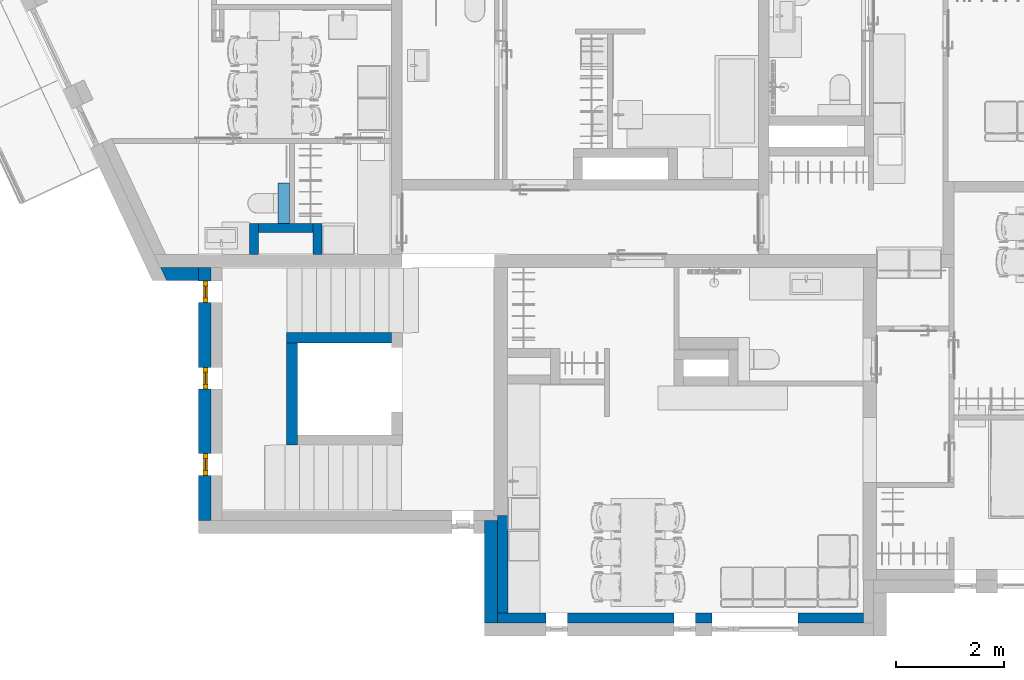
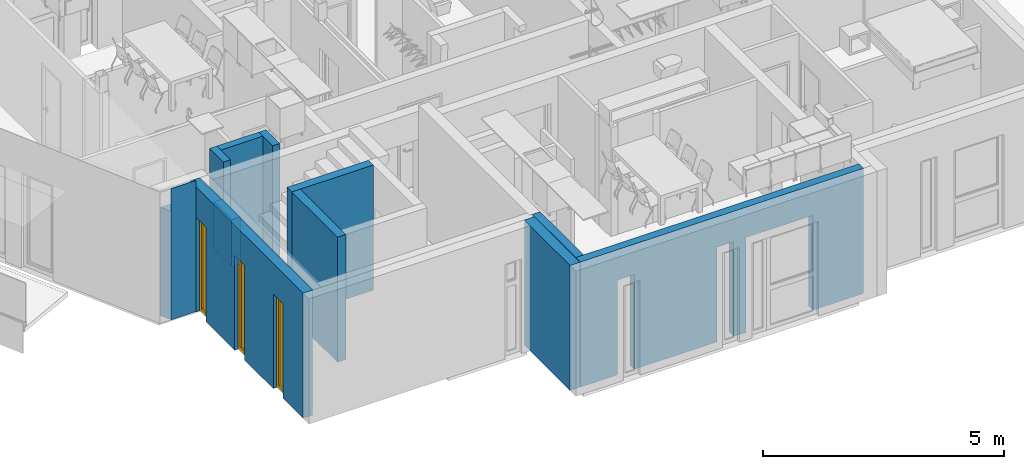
# One storey, part 3 of 68: 11 walls, 3 windows, 12 openings.
"""IFC2X3 building model written with IfcOpenShell, lengths in millimetres."""

from ifc_helpers import new_model, entity, si_unit, converted_unit, direction, frame, frame_2d, origin, place, context, subcontext, project, spatial, polyline, rectangle, outline, extrude, clip, bounded_halfspace, faceted_brep, source, transform, mapped, material, material_list, layer, layer_set, layer_usage, type_object, type_shapes, element, fill, save


model = new_model("IFC2X3")

# Units and contexts
model_context = context("Model", 3, precision=0.01, world=origin(), true_north=direction((6.123233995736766e-17, 1.0)))
plan_context = context("Plan", 3, precision=0.01, world=origin(), true_north=direction((6.123233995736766e-17, 1.0)))
body_context = subcontext(model_context, "Body", "Model", "MODEL_VIEW")
ifc_project = project(units=[si_unit("LENGTHUNIT", "METRE", prefix="MILLI"), converted_unit("PLANEANGLEUNIT", "DEGREE", entity("IfcPlaneAngleMeasure", 0.017453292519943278), si_unit("PLANEANGLEUNIT", "RADIAN"), dimensions=[0, 0, 0, 0, 0, 0, 0]), si_unit("AREAUNIT", "SQUARE_METRE")], contexts=[model_context, plan_context])

# Site, building, storey
site_placement = place(None, origin())
site = spatial("IfcSite", under=ifc_project, at=site_placement, Name="Default", CompositionType="ELEMENT")
building_placement = place(site_placement, origin())
building = spatial("IfcBuilding", under=site, at=building_placement, CompositionType="ELEMENT")
storey_placement = place(building_placement, frame((0.0, 0.0, 6295.0)))
storey = spatial("IfcBuildingStorey", under=building, at=storey_placement, Name="3K", CompositionType="ELEMENT", Elevation=6294.999999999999)

# Walls
ifc_material_1 = material(Name="_K. Väisviimistlus. Krohv. Valge")
ifc_layer_1 = layer(ifc_material_1, 5.0)
ifc_material_2 = material(Name="_K. Müüritis. Väikeplokk. Betoon-õõnesplokk")
ifc_layer_2 = layer(ifc_material_2, 190.00000000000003)
ifc_layer_3 = layer(ifc_material_1, 5.0)
ifc_layer_set_1 = layer_set([ifc_layer_1, ifc_layer_2, ifc_layer_3], Name="Basic Wall:SS-01. 190")
ifc_layer_usage_1 = layer_usage(ifc_layer_set_1, "AXIS2", "NEGATIVE", 100.00000000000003)
wall_type_1 = type_object("IfcWallType", Name="Basic Wall:SS-01. 190", PredefinedType="STANDARD", material=ifc_layer_set_1)
wall_1_placement = place(storey_placement, frame((1199.993534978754, 5099.998433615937, 0.0)))
element("IfcWallStandardCase", 1, at=wall_1_placement, inside=storey, type_object=wall_type_1, material=ifc_layer_usage_1, Name="Basic Wall:SS-01. 190", ObjectType="Basic Wall:SS-01. 190", context=body_context, shape_type="SweptSolid", body=[
    extrude(rectangle(XDim=1949.9999999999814, YDim=200.0, at=frame_2d((974.9999999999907, 0.0), x_axis=(-1.0, 0.0))), origin(), (0.0, 0.0, 1.0), 3169.999999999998),
])
ifc_layer_usage_2 = layer_usage(ifc_layer_set_1, "AXIS2", "NEGATIVE", 100.00000000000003)
wall_2_placement = place(storey_placement, frame((1299.993534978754, 3109.993855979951, 0.0), z_axis=(0.0, 0.0, 1.0), x_axis=(0.0, 1.0, 0.0)))
element("IfcWallStandardCase", 2, at=wall_2_placement, inside=storey, type_object=wall_type_1, material=ifc_layer_usage_2, Name="Basic Wall:SS-01. 190", ObjectType="Basic Wall:SS-01. 190", context=body_context, shape_type="SweptSolid", body=[
    extrude(rectangle(XDim=1890.0045776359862, YDim=200.0, at=frame_2d((945.0022888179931, 0.0), x_axis=(-1.0, 0.0))), origin(), (0.0, 0.0, 1.0), 3169.999999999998),
])

# Wall, openings
ifc_layer_4 = layer(ifc_material_2, 190.00000000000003)
ifc_layer_set_2 = layer_set([ifc_layer_4], Name="Basic Wall:Columbia 190mm")
ifc_layer_usage_3 = layer_usage(ifc_layer_set_2, "AXIS2", "NEGATIVE", 95.00000000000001)
wall_type_2 = type_object("IfcWallType", Name="Basic Wall:Columbia 190mm", PredefinedType="STANDARD", material=ifc_layer_set_2)
wall_3_placement = place(storey_placement, frame((11900.0, -95.0, 0.0), z_axis=(0.0, 0.0, 1.0), x_axis=(-1.0, 0.0, 0.0)))
wall_3 = element("IfcWallStandardCase", 3, at=wall_3_placement, inside=storey, type_object=wall_type_2, material=ifc_layer_usage_3, Name="Basic Wall:Columbia 190mm", ObjectType="Basic Wall:Columbia 190mm", context=body_context, shape_type="SweptSolid", body=[
    extrude(rectangle(XDim=6785.002136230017, YDim=190.00000000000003, at=frame_2d((3392.5010681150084, 0.0), x_axis=(1.0, 0.0))), origin(), (0.0, 0.0, 1.0), 3169.999999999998),
])
opening_1_placement = place(wall_3_placement, frame((11900.0, -95.0, 0.0)))
element("IfcOpeningElement", 4, at=opening_1_placement, cuts=wall_3, Name="Basic Wall:Columbia 190mm", ObjectType="Opening", context=body_context, shape_type="Brep", body=[
    faceted_brep([(-9490.0, 450.0, 2400.0), (-9490.0, -244.0, 2400.0), (-9490.0, -244.0, 0.0), (-9490.0, 340.0, 0.0), (-9490.0, 350.0, 0.0), (-9490.0, 450.0, 0.0), (-10690.0, 450.0, 2400.0), (-10690.0, -244.0, 2400.0), (-10690.0, 450.0, 0.0), (-10690.0, 350.0, 0.0), (-10690.0, 340.0, 0.0), (-10690.0, -244.0, 0.0)], [[[0, 1, 2, 3, 4, 5]], [[6, 7, 1, 0]], [[8, 9, 10, 11, 7, 6]], [[5, 4, 3, 2, 11, 10, 9, 8]], [[6, 0, 5, 8]], [[7, 11, 2, 1]]]),
])
opening_2_placement = place(wall_3_placement, frame((11900.0, -95.0, 0.0)))
element("IfcOpeningElement", 5, at=opening_2_placement, cuts=wall_3, Name="Basic Wall:Columbia 190mm", ObjectType="Opening", context=body_context, shape_type="Brep", body=[
    faceted_brep([(-8390.0, 450.0, 2400.0), (-8390.0, -244.0, 2400.0), (-8390.0, -244.0, 0.0), (-8390.0, 340.0, 0.0), (-8390.0, 350.0, 0.0), (-8390.0, 450.0, 0.0), (-8790.0, 450.0, 2400.0), (-8790.0, -244.0, 2400.0), (-8790.0, 450.0, 0.0), (-8790.0, 350.0, 0.0), (-8790.0, 340.0, 0.0), (-8790.0, -244.0, 0.0)], [[[0, 1, 2, 3, 4, 5]], [[6, 7, 1, 0]], [[8, 9, 10, 11, 7, 6]], [[5, 4, 3, 2, 11, 10, 9, 8]], [[6, 0, 5, 8]], [[7, 11, 2, 1]]]),
])
opening_3_placement = place(wall_3_placement, frame((11900.0, -95.0, 0.0)))
element("IfcOpeningElement", 6, at=opening_3_placement, cuts=wall_3, Name="Basic Wall:Columbia 190mm", ObjectType="Opening", context=body_context, shape_type="Brep", body=[
    faceted_brep([(-6010.0, 450.0, 2400.0), (-6010.0, -244.0, 2400.0), (-6010.0, -244.0, 0.0), (-6010.0, 340.0, 0.0), (-6010.0, 350.0, 0.0), (-6010.0, 450.0, 0.0), (-6410.0, 450.0, 2400.0), (-6410.0, -244.0, 2400.0), (-6410.0, 450.0, 0.0), (-6410.0, 350.0, 0.0), (-6410.0, 340.0, 0.0), (-6410.0, -244.0, 0.0)], [[[0, 1, 2, 3, 4, 5]], [[6, 7, 1, 0]], [[8, 9, 10, 11, 7, 6]], [[5, 4, 3, 2, 11, 10, 9, 8]], [[6, 0, 5, 8]], [[7, 11, 2, 1]]]),
])
opening_4_placement = place(wall_3_placement, frame((11900.0, -95.0, 0.0)))
element("IfcOpeningElement", 7, at=opening_4_placement, cuts=wall_3, Name="Basic Wall:Columbia 190mm", ObjectType="Opening", context=body_context, shape_type="Brep", body=[
    faceted_brep([(-9090.0, 450.0, 2400.0), (-9090.0, -244.0, 2400.0), (-9090.0, -244.0, 0.0), (-9090.0, 340.0, 0.0), (-9090.0, 350.0, 0.0), (-9090.0, 450.0, 0.0), (-9490.0, 450.0, 2400.0), (-9490.0, -244.0, 2400.0), (-9490.0, 450.0, 0.0), (-9490.0, 350.0, 0.0), (-9490.0, 340.0, 0.0), (-9490.0, -244.0, 0.0)], [[[0, 1, 2, 3, 4, 5]], [[6, 7, 1, 0]], [[8, 9, 10, 11, 7, 6]], [[5, 4, 3, 2, 11, 10, 9, 8]], [[6, 0, 5, 8]], [[7, 11, 2, 1]]]),
])

# Walls
ifc_layer_usage_4 = layer_usage(ifc_layer_set_2, "AXIS2", "NEGATIVE", 95.00000000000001)
wall_4_placement = place(storey_placement, frame((5209.997863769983, 0.0, 0.0), z_axis=(0.0, 0.0, 1.0), x_axis=(0.0, 1.0, 0.0)))
element("IfcWallStandardCase", 8, at=wall_4_placement, inside=storey, type_object=wall_type_2, material=ifc_layer_usage_4, Name="Basic Wall:Columbia 190mm", ObjectType="Basic Wall:Columbia 190mm", context=body_context, shape_type="SweptSolid", body=[
    extrude(rectangle(XDim=1804.9999999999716, YDim=190.0000000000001, at=frame_2d((902.4999999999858, -8.526512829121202e-14), x_axis=(-1.0, 0.0))), origin(), (0.0, 0.0, 1.0), 3169.999999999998),
])
ifc_layer_5 = layer(ifc_material_1, 10.0)
ifc_material_3 = material(Name="_K. Soojustus. EPS Silver")
ifc_layer_6 = layer(ifc_material_3, 230.0)
ifc_layer_set_3 = layer_set([ifc_layer_5, ifc_layer_6], Name="Basic Wall:VS-01")
ifc_layer_usage_5 = layer_usage(ifc_layer_set_3, "AXIS2", "NEGATIVE", 120.0)
wall_type_3 = type_object("IfcWallType", Name="Basic Wall:VS-01", PredefinedType="STANDARD", material=ifc_layer_set_3)
wall_5_placement = place(storey_placement, frame((4990.0, -190.0, 0.0), z_axis=(0.0, 0.0, 1.0), x_axis=(0.0, 1.0, 0.0)))
element("IfcWallStandardCase", 9, at=wall_5_placement, inside=storey, type_object=wall_type_3, material=ifc_layer_usage_5, Name="Basic Wall:VS-01", ObjectType="Basic Wall:VS-01", context=body_context, shape_type="SweptSolid", body=[
    extrude(rectangle(XDim=1899.999999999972, YDim=239.99999999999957, at=frame_2d((949.999999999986, 8.526512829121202e-14), x_axis=(-1.0, 0.0))), origin(), (0.0, 0.0, 1.0), 3169.999999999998),
])

# Wall, openings, windows
ifc_layer_usage_6 = layer_usage(ifc_layer_set_3, "AXIS2", "NEGATIVE", 120.0)
wall_6_placement = place(storey_placement, frame((-310.0, 1710.0, 0.0), z_axis=(0.0, 0.0, 1.0), x_axis=(0.0, 1.0, 0.0)))
wall_6 = element("IfcWallStandardCase", 10, at=wall_6_placement, inside=storey, type_object=wall_type_3, material=ifc_layer_usage_6, Name="Basic Wall:VS-01", ObjectType="Basic Wall:VS-01", context=body_context, shape_type="Clipping", body=[
    clip(extrude(rectangle(XDim=4694.999959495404, YDim=240.0, at=frame_2d((2347.499979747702, 0.0), x_axis=(-1.0, 0.0))), origin(), (0.0, 0.0, 1.0), 3169.999999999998), bounded_halfspace(frame((0.0, -110.0, 0.0), z_axis=(0.0, 1.0, 0.0), x_axis=(-1.0, 0.0, 0.0)), True, frame((0.0, -110.0, 0.0), z_axis=(0.0, 1.0, 0.0), x_axis=(-1.0, 0.0, 0.0)), polyline([(0.0, 0.0), (0.0, 2974.999801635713), (0.0, 3170.0), (-4694.999959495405, 3170.0), (-4694.999959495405, 2974.999801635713), (-4694.999959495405, 0.0), (-4439.999959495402, 0.0), (-4439.999959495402, 2400.0), (-4039.9999594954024, 2400.0), (-4039.9999594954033, 0.0), (-2839.9999594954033, 0.0), (-2839.9999594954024, 2400.0), (-2439.9999594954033, 2400.0), (-2439.9999594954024, 0.0), (-1239.999959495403, 0.0), (-1239.9999594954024, 2400.0), (-839.9999594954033, 2400.0), (-839.9999594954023, 0.0), (0.0, 0.0)]))),
])
opening_5_placement = place(wall_6_placement, frame((-1710.0, -310.0, 3170.000076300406)))
element("IfcOpeningElement", 11, at=opening_5_placement, cuts=wall_6, Name="Basic Wall:VS-01", ObjectType="Opening", context=body_context, shape_type="Brep", body=[
    faceted_brep([(2300.0, 450.0, 2400.0), (2300.0, -244.0, 2400.0), (2300.0, -244.0, 0.0), (2300.0, 340.0, 0.0), (2300.0, 350.0, 0.0), (2300.0, 450.0, 0.0), (1900.0, 450.0, 2400.0), (1900.0, -244.0, 2400.0), (1900.0, 450.0, 0.0), (1900.0, 350.0, 0.0), (1900.0, 340.0, 0.0), (1900.0, -244.0, 0.0)], [[[0, 1, 2, 3, 4, 5]], [[6, 7, 1, 0]], [[8, 9, 10, 11, 7, 6]], [[5, 4, 3, 2, 11, 10, 9, 8]], [[6, 0, 5, 8]], [[7, 11, 2, 1]]]),
])
opening_6_placement = place(wall_6_placement, frame((-1710.0, -310.0, 3170.000076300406)))
element("IfcOpeningElement", 12, at=opening_6_placement, cuts=wall_6, Name="Basic Wall:VS-01", ObjectType="Opening", context=body_context, shape_type="Brep", body=[
    faceted_brep([(3900.0, 450.0, 2400.0), (3900.0, -244.0, 2400.0), (3900.0, -244.0, 0.0), (3900.0, 340.0, 0.0), (3900.0, 350.0, 0.0), (3900.0, 450.0, 0.0), (3500.0, 450.0, 2400.0), (3500.0, -244.0, 2400.0), (3500.0, 450.0, 0.0), (3500.0, 350.0, 0.0), (3500.0, 340.0, 0.0), (3500.0, -244.0, 0.0)], [[[0, 1, 2, 3, 4, 5]], [[6, 7, 1, 0]], [[8, 9, 10, 11, 7, 6]], [[5, 4, 3, 2, 11, 10, 9, 8]], [[6, 0, 5, 8]], [[7, 11, 2, 1]]]),
])
opening_7_placement = place(wall_6_placement, frame((-1710.0, -310.0, 3170.000076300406)))
element("IfcOpeningElement", 13, at=opening_7_placement, cuts=wall_6, Name="Basic Wall:VS-01", ObjectType="Opening", context=body_context, shape_type="Brep", body=[
    faceted_brep([(5500.0, 450.0, 2400.0), (5500.0, -244.0, 2400.0), (5500.0, -244.0, 0.0), (5500.0, 340.0, 0.0), (5500.0, 350.0, 0.0), (5500.0, 450.0, 0.0), (5100.0, 450.0, 2400.0), (5100.0, -244.0, 2400.0), (5100.0, 450.0, 0.0), (5100.0, 350.0, 0.0), (5100.0, 340.0, 0.0), (5100.0, -244.0, 0.0)], [[[0, 1, 2, 3, 4, 5]], [[6, 7, 1, 0]], [[8, 9, 10, 11, 7, 6]], [[5, 4, 3, 2, 11, 10, 9, 8]], [[6, 0, 5, 8]], [[7, 11, 2, 1]]]),
])
opening_8_placement = place(wall_6_placement, frame((-1710.0, -310.0, 0.0), z_axis=(0.0, 0.0, 1.0), x_axis=(0.0, -1.0, 0.0)))
opening_8 = element("IfcOpeningElement", 14, at=opening_8_placement, cuts=wall_6, Name="Basic Wall:VS-01", ObjectType="Opening", context=body_context, shape_type="Brep", body=[
    faceted_brep([(-450.0, 6149.999959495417, 2400.0), (244.0, 6149.999959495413, 2400.0), (244.0, 6149.999959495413, 0.0), (-340.0, 6149.999959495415, 0.0), (-350.0, 6149.999959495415, 0.0), (-450.0, 6149.999959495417, 0.0), (-450.0, 5749.999959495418, 2400.0), (244.0, 5749.999959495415, 2400.0), (-450.0, 5749.999959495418, 0.0), (-350.0, 5749.999959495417, 0.0), (-340.0, 5749.999959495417, 0.0), (244.0, 5749.999959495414, 0.0)], [[[0, 1, 2, 3, 4, 5]], [[6, 7, 1, 0]], [[8, 9, 10, 11, 7, 6]], [[5, 4, 3, 2, 11, 10, 9, 8]], [[6, 0, 5, 8]], [[7, 11, 2, 1]]]),
])
opening_9_placement = place(wall_6_placement, frame((-1710.0, -310.0, 0.0), z_axis=(0.0, 0.0, 1.0), x_axis=(0.0, -1.0, 0.0)))
opening_9 = element("IfcOpeningElement", 15, at=opening_9_placement, cuts=wall_6, Name="Basic Wall:VS-01", ObjectType="Opening", context=body_context, shape_type="Brep", body=[
    faceted_brep([(-450.0, 4549.999959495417, 2400.0), (244.0, 4549.999959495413, 2400.0), (244.0, 4549.999959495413, 0.0), (-340.0, 4549.999959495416, 0.0), (-350.0, 4549.999959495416, 0.0), (-450.0, 4549.999959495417, 0.0), (-450.0, 4149.999959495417, 2400.0), (244.0, 4149.999959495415, 2400.0), (-450.0, 4149.999959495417, 0.0), (-350.0, 4149.999959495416, 0.0), (-340.0, 4149.999959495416, 0.0), (244.0, 4149.999959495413, 0.0)], [[[0, 1, 2, 3, 4, 5]], [[6, 7, 1, 0]], [[8, 9, 10, 11, 7, 6]], [[5, 4, 3, 2, 11, 10, 9, 8]], [[6, 0, 5, 8]], [[7, 11, 2, 1]]]),
])
opening_10_placement = place(wall_6_placement, frame((-1710.0, -310.0, 0.0), z_axis=(0.0, 0.0, 1.0), x_axis=(0.0, -1.0, 0.0)))
opening_10 = element("IfcOpeningElement", 16, at=opening_10_placement, cuts=wall_6, Name="Basic Wall:VS-01", ObjectType="Opening", context=body_context, shape_type="Brep", body=[
    faceted_brep([(-450.0, 2949.999959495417, 2400.0), (244.0, 2949.999959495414, 2400.0), (244.0, 2949.999959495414, 0.0), (-340.0, 2949.9999594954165, 0.0), (-350.0, 2949.9999594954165, 0.0), (-450.0, 2949.999959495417, 0.0), (-450.0, 2549.999959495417, 2400.0), (244.0, 2549.999959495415, 2400.0), (-450.0, 2549.999959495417, 0.0), (-350.0, 2549.9999594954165, 0.0), (-340.0, 2549.9999594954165, 0.0), (244.0, 2549.999959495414, 0.0)], [[[0, 1, 2, 3, 4, 5]], [[6, 7, 1, 0]], [[8, 9, 10, 11, 7, 6]], [[5, 4, 3, 2, 11, 10, 9, 8]], [[6, 0, 5, 8]], [[7, 11, 2, 1]]]),
])
ifc_material_4 = material(Name="_K. Avatäited. Raam. PVC. Valge")
ifc_material_5 = material(Name="_K. Klaas. Pakett")
ifc_material_6 = material(Name="_K. Avatäited. Raam. PVC. RAL9005")
ifc_material_list = material_list([ifc_material_4, ifc_material_5, ifc_material_6])
window_style = type_object("IfcWindowStyle", Name="HR_Window_Generic_Rectangle_1x1:A-01.400x2400.ma", ConstructionType="NOTDEFINED", OperationType="NOTDEFINED", ParameterTakesPrecedence=False, Sizeable=False, material=ifc_material_list)
shared_shape = source(origin(), body_context, "Body", "Brep", [
    faceted_brep([(88.0, -194.0, 2312.0), (312.0, -194.0, 2312.0), (312.0, -194.0, 108.0), (88.0, -194.0, 108.0), (342.0, -194.0, 2342.0), (58.0, -194.0, 2342.0), (58.0, -194.0, 78.0), (342.0, -194.0, 78.0), (88.0, -159.0, 2312.0), (88.0, -159.0, 108.0), (312.0, -159.0, 108.0), (342.0, -159.0, 2342.0), (342.0, -159.0, 78.0), (58.0, -159.0, 78.0), (58.0, -159.0, 2342.0), (312.0, -159.0, 2312.0)], [[[0, 1, 2, 3], [4, 5, 6, 7]], [[8, 0, 3, 9]], [[9, 3, 2, 10]], [[11, 12, 13, 14], [15, 8, 9, 10]], [[1, 15, 10, 2]], [[6, 5, 14, 13]], [[7, 6, 13, 12]], [[4, 7, 12, 11]], [[15, 1, 0, 8]], [[5, 4, 11, 14]]], outer=[[False, True], [True], [True], [True, False], [True], [True], [True], [True], [True], [True]]),
    faceted_brep([(342.0, -159.0, 2342.0), (58.0, -159.0, 2342.0), (58.0, -159.0, 78.0), (342.0, -159.0, 78.0), (58.0, -134.0, 2342.0), (58.0, -134.0, 78.0), (342.0, -134.0, 78.0), (342.0, -134.0, 2342.0)], [[[0, 1, 2, 3]], [[2, 1, 4, 5]], [[3, 2, 5, 6]], [[0, 3, 6, 7]], [[7, 6, 5, 4]], [[1, 0, 7, 4]]]),
    faceted_brep([(342.0, -134.0, 78.0), (58.0, -134.0, 78.0), (58.0, -194.0, 78.0), (342.0, -194.0, 78.0), (58.0, -134.0, 2342.0), (58.0, -194.0, 2342.0), (342.0, -134.0, 2342.0), (342.0, -194.0, 2342.0), (88.0, -100.0, 108.0), (88.0, -100.0, 2312.0), (88.0, -134.0, 2312.0), (88.0, -134.0, 108.0), (312.0, -100.0, 108.0), (312.0, -134.0, 108.0), (312.0, -100.0, 2312.0), (312.0, -134.0, 2312.0), (0.0, -100.0, 2400.0), (400.0, -100.0, 2400.0), (400.0, -100.0, 30.0), (0.0, -100.0, 30.0), (400.0, -194.0, 2400.0), (0.0, -194.0, 2400.0), (0.0, -194.0, 30.0), (400.0, -194.0, 30.0), (0.0, -110.0, 30.0), (0.0, -110.0, 0.0), (0.0, -184.0, 0.0), (0.0, -184.0, 30.0), (400.0, -184.0, 30.0), (400.0, -184.0, 0.0), (400.0, -110.0, 0.0), (400.0, -110.0, 30.0)], [[[0, 1, 2, 3]], [[1, 4, 5, 2]], [[6, 0, 3, 7]], [[8, 9, 10, 11]], [[12, 8, 11, 13]], [[14, 12, 13, 15]], [[16, 17, 18, 19], [9, 8, 12, 14]], [[20, 21, 22, 23], [7, 3, 2, 5]], [[21, 16, 19, 24, 25, 26, 27, 22]], [[27, 28, 23, 22]], [[17, 20, 23, 28, 29, 30, 31, 18]], [[31, 24, 19, 18]], [[24, 31, 30, 25]], [[25, 30, 29, 26]], [[28, 27, 26, 29]], [[4, 6, 7, 5]], [[9, 14, 15, 10]], [[21, 20, 17, 16]], [[10, 15, 13, 11], [0, 6, 4, 1]]], outer=[[True], [True], [True], [True], [True], [True], [True, False], [True, False], [True], [True], [True], [True], [True], [True], [True], [True], [True], [True], [False, True]]),
])
type_shapes(window_style, [shared_shape])
window_1_placement = place(opening_10_placement, frame((-450.0, 2549.9999594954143, 0.0), z_axis=(0.0, 0.0, 1.0), x_axis=(0.0, 1.0, 0.0)))
window_1 = element("IfcWindow", 17, at=window_1_placement, inside=storey, type_object=window_style, material=ifc_material_list, Name="HR_Window_Generic_Rectangle_1x1:A-01.400x2400.ma", ObjectType="HR_Window_Generic_Rectangle_1x1:A-01.400x2400.ma", OverallHeight=2465.0000000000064, OverallWidth=400.0000000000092, context=body_context, shape_type="MappedRepresentation", body=[
    mapped(shared_shape, transform((0.0, 0.0, 0.0), scale=1.0)),
])
fill(opening_10, window_1)
window_2_placement = place(opening_9_placement, frame((-450.0, 4149.999959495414, 0.0), z_axis=(0.0, 0.0, 1.0), x_axis=(0.0, 1.0, 0.0)))
window_2 = element("IfcWindow", 18, at=window_2_placement, inside=storey, type_object=window_style, material=ifc_material_list, Name="HR_Window_Generic_Rectangle_1x1:A-01.400x2400.ma", ObjectType="HR_Window_Generic_Rectangle_1x1:A-01.400x2400.ma", OverallHeight=2465.0000000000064, OverallWidth=400.0000000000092, context=body_context, shape_type="MappedRepresentation", body=[
    mapped(shared_shape, transform((0.0, 0.0, 0.0), scale=1.0)),
])
fill(opening_9, window_2)
window_3_placement = place(opening_8_placement, frame((-450.0, 5749.999959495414, 0.0), z_axis=(0.0, 0.0, 1.0), x_axis=(0.0, 1.0, 0.0)))
window_3 = element("IfcWindow", 19, at=window_3_placement, inside=storey, type_object=window_style, material=ifc_material_list, Name="HR_Window_Generic_Rectangle_1x1:A-01.400x2400.ma", ObjectType="HR_Window_Generic_Rectangle_1x1:A-01.400x2400.ma", OverallHeight=2465.0000000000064, OverallWidth=400.0000000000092, context=body_context, shape_type="MappedRepresentation", body=[
    mapped(shared_shape, transform((0.0, 0.0, 0.0), scale=1.0)),
])
fill(opening_8, window_3)

# Wall, openings
ifc_layer_usage_7 = layer_usage(ifc_layer_set_3, "AXIS2", "NEGATIVE", 120.0)
wall_7_placement = place(storey_placement, frame((-430.0, 6284.999959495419, 0.0), z_axis=(0.0, 0.0, 1.0), x_axis=(-1.0, 0.0, 0.0)))
wall_7 = element("IfcWallStandardCase", 20, at=wall_7_placement, inside=storey, type_object=wall_type_3, material=ifc_layer_usage_7, Name="Basic Wall:VS-01", ObjectType="Basic Wall:VS-01", context=body_context, shape_type="Clipping", body=[
    clip(extrude(outline(polyline([(705.5020687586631, -120.0), (593.0020688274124, 120.0), (0.0, 120.0), (0.0, -120.0), (705.5020687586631, -120.0)])), origin(), (0.0, 0.0, 1.0), 3325.0000763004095), bounded_halfspace(frame((0.0, -120.0, 2749.9998016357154), z_axis=(0.0, 0.0, 1.0), x_axis=(-1.0, 0.0, 0.0)), False, frame((0.0, -120.0, 2749.9998016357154)), polyline([(0.0, 0.0), (705.5020687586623, 0.0), (597.6895688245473, 230.0), (0.0, 230.0), (0.0, 0.0)]))),
])
opening_11_placement = place(wall_7_placement, frame((-430.0, 6284.999959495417, 0.0)))
element("IfcOpeningElement", 21, at=opening_11_placement, cuts=wall_7, Name="Basic Wall:VS-01", ObjectType="Opening", context=body_context, shape_type="Brep", body=[
    faceted_brep([(-8220.0, -5552.999959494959, 2100.0), (-7220.0, -5552.999959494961, 2100.0), (-7220.0, -5552.999959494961, 0.0), (-8220.0, -5552.999959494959, 0.0), (-8220.0, -7644.999959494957, 0.0), (-8220.0, -7644.999959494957, 2100.0), (-7220.0, -7644.99995949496, 0.0), (-7220.0, -7644.99995949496, 2100.0)], [[[0, 1, 2, 3]], [[3, 4, 5, 0]], [[2, 6, 4, 3]], [[1, 7, 6, 2]], [[5, 7, 1, 0]], [[7, 5, 4, 6]]]),
])
opening_12_placement = place(wall_7_placement, frame((-430.0, 6284.999959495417, 3170.0000763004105)))
element("IfcOpeningElement", 22, at=opening_12_placement, cuts=wall_7, Name="Basic Wall:VS-01", ObjectType="Opening", context=body_context, shape_type="Brep", body=[
    faceted_brep([(-6680.0, -7496.9999594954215, 2100.0), (-7680.0, -7496.999959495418, 2100.0), (-7680.0, -7496.999959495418, 0.0), (-6680.0, -7496.9999594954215, 0.0), (-6680.0, -5404.999959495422, 0.0), (-6680.0, -5404.999959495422, 2100.0), (-7680.0, -5404.999959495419, 0.0), (-7680.0, -5404.999959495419, 2100.0)], [[[0, 1, 2, 3]], [[3, 4, 5, 0]], [[2, 6, 4, 3]], [[1, 7, 6, 2]], [[5, 7, 1, 0]], [[7, 5, 4, 6]]]),
])

# Walls
ifc_layer_7 = layer(ifc_material_1, 10.0)
ifc_material_7 = material(Name="_K. Müüritis. Väikeplokk. Kergkruusplokk")
ifc_layer_8 = layer(ifc_material_7, 150.0)
ifc_layer_9 = layer(ifc_material_1, 10.0)
ifc_layer_set_4 = layer_set([ifc_layer_7, ifc_layer_8, ifc_layer_9], Name="Basic Wall:SS-03. Šahti sein")
ifc_layer_usage_8 = layer_usage(ifc_layer_set_4, "AXIS2", "NEGATIVE", 85.00000000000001)
wall_type_4 = type_object("IfcWallType", Name="Basic Wall:SS-03. Šahti sein", PredefinedType="STANDARD", material=ifc_layer_set_4)
wall_8_placement = place(storey_placement, frame((595.0, 6644.999959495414, 0.0), z_axis=(0.0, 0.0, 1.0), x_axis=(0.0, 1.0, 0.0)))
element("IfcWallStandardCase", 23, at=wall_8_placement, inside=storey, type_object=wall_type_4, material=ifc_layer_usage_8, Name="Basic Wall:SS-03. Šahti sein", ObjectType="Basic Wall:SS-03. Šahti sein", context=body_context, shape_type="SweptSolid", body=[
    extrude(rectangle(XDim=575.0000405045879, YDim=170.00000000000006, at=frame_2d((287.50002025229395, 2.1316282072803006e-14), x_axis=(-1.0, 0.0))), origin(), (0.0, 0.0, 1.0), 3169.999999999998),
])
ifc_layer_usage_9 = layer_usage(ifc_layer_set_4, "AXIS2", "NEGATIVE", 85.00000000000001)
wall_9_placement = place(storey_placement, frame((680.0, 7135.0, 0.0)))
element("IfcWallStandardCase", 24, at=wall_9_placement, inside=storey, type_object=wall_type_4, material=ifc_layer_usage_9, Name="Basic Wall:SS-03. Šahti sein", ObjectType="Basic Wall:SS-03. Šahti sein", context=body_context, shape_type="SweptSolid", body=[
    extrude(rectangle(XDim=1010.0000000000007, YDim=170.00000000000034, at=frame_2d((505.00000000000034, 0.0), x_axis=(-1.0, 0.0))), origin(), (0.0, 0.0, 1.0), 3169.999999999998),
])
ifc_layer_usage_10 = layer_usage(ifc_layer_set_4, "AXIS2", "NEGATIVE", 85.00000000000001)
wall_10_placement = place(storey_placement, frame((1775.0, 7220.0, 0.0), z_axis=(0.0, 0.0, 1.0), x_axis=(0.0, -1.0, 0.0)))
element("IfcWallStandardCase", 25, at=wall_10_placement, inside=storey, type_object=wall_type_4, material=ifc_layer_usage_10, Name="Basic Wall:SS-03. Šahti sein", ObjectType="Basic Wall:SS-03. Šahti sein", context=body_context, shape_type="SweptSolid", body=[
    extrude(rectangle(XDim=575.0000405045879, YDim=169.99999999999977, at=frame_2d((287.50002025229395, -2.1316282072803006e-14), x_axis=(-1.0, 0.0))), origin(), (0.0, 0.0, 1.0), 3169.999999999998),
])
ifc_material_8 = material(Name="_K. Ehitusplaat. Kipsplaat. Erikõva")
ifc_layer_10 = layer(ifc_material_8, 13.000000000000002)
ifc_material_9 = material(Name="_K. Õhk. Roov. Fassaadikatte alusroov. Vertikaalne. 25 mm")
ifc_layer_11 = layer(ifc_material_9, 200.0)
ifc_layer_set_5 = layer_set([ifc_layer_10, ifc_layer_11], Name="Basic Wall:SS-403")
ifc_layer_usage_11 = layer_usage(ifc_layer_set_5, "AXIS2", "POSITIVE", -106.5)
wall_type_5 = type_object("IfcWallType", Name="Basic Wall:SS-403", PredefinedType="STANDARD", material=ifc_layer_set_5)
wall_11_placement = place(storey_placement, frame((1146.4935349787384, 7970.0, -20.0), z_axis=(0.0, 0.0, 1.0), x_axis=(0.0, -1.0, 0.0)))
element("IfcWallStandardCase", 26, at=wall_11_placement, inside=storey, type_object=wall_type_5, material=ifc_layer_usage_11, Name="Basic Wall:SS-403", ObjectType="Basic Wall:SS-403", context=body_context, shape_type="SweptSolid", body=[
    extrude(rectangle(XDim=750.0000000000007, YDim=213.00000000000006, at=frame_2d((375.00000000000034, 2.842170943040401e-14), x_axis=(-1.0, 0.0))), origin(), (0.0, 0.0, 1.0), 1200.0),
])

save(model, "model.ifc")
